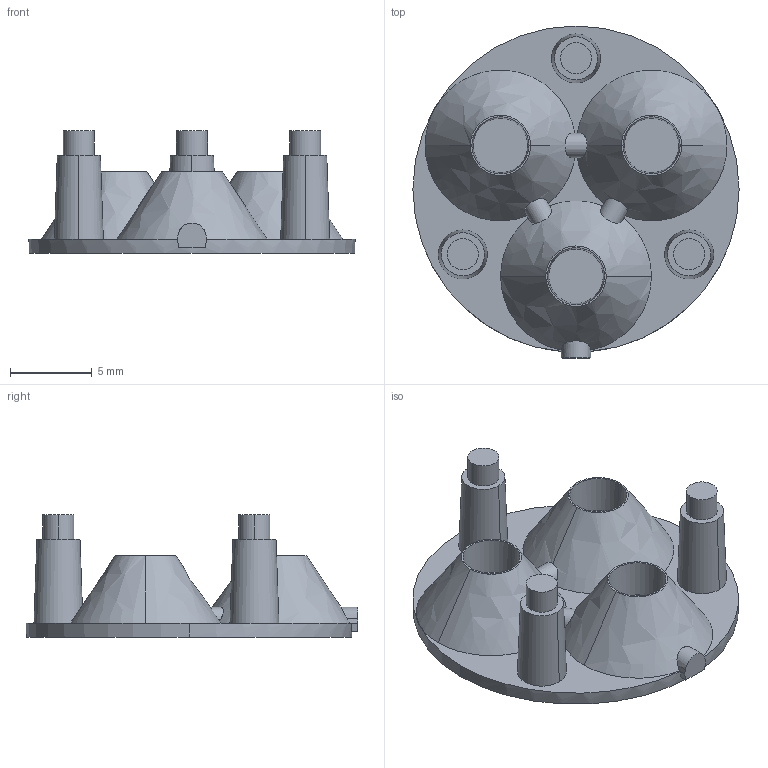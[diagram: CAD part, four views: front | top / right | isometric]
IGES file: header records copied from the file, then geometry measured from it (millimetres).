
Start section:  PTC IGES file: 10507_iss3_121108.igs
Global section: file name: 10507_iss3_121108.igs; native system: Pro/ENGINEER by Parametric Technology Corporation; preprocessor: 2008230; author: DenningtonA; organization: Unknown; date: 20081112.163241; units: millimetre
Bounding box: 19.97 x 20.33 x 7.5 mm (x, y, z)
Surface area: 1047.2 mm2 (no closed solid volume)
Topology: 0 solids, 0 shells, 57 faces, 272 edges, 272 vertices
Faces by surface type: revolution 30, bspline 27
